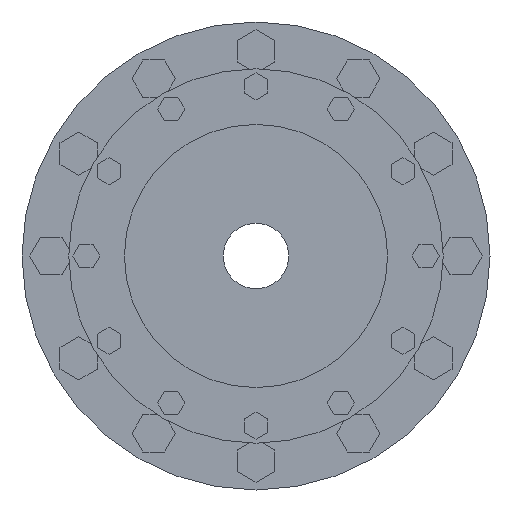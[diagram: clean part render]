
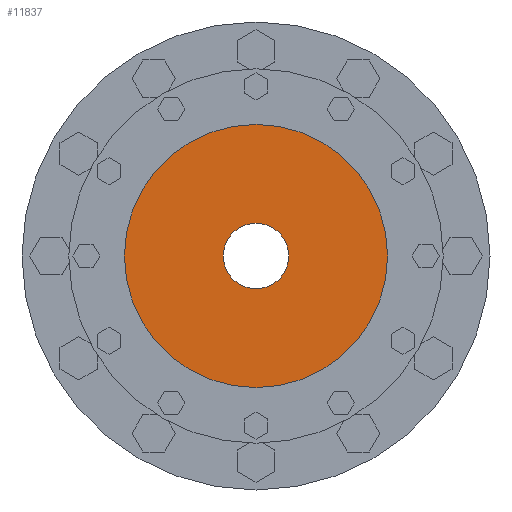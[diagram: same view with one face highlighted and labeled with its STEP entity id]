
A CAD part, left-side view. The second image highlights one B-rep face of the part: STEP entity #11837.
In plain terms, the highlighted planar face has unit normal (-1, 0, 0) as drawn and (1, 0, 0) by its records, which use the part's own axes.
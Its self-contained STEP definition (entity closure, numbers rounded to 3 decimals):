
#11661=CARTESIAN_POINT('',(-4.,0.,0.));
#11662=DIRECTION('',(1.,0.,0.));
#11663=DIRECTION('',(0.,1.,0.));
#11664=AXIS2_PLACEMENT_3D('',#11661,#11662,#11663);
#11671=CARTESIAN_POINT('',(-4.,0.,0.));
#11672=DIRECTION('',(-1.,0.,0.));
#11673=DIRECTION('',(0.,1.,0.));
#11674=AXIS2_PLACEMENT_3D('',#11671,#11672,#11673);
#11676=CARTESIAN_POINT('',(-4.,0.,0.));
#11677=DIRECTION('',(1.,0.,0.));
#11678=DIRECTION('',(0.,1.,0.));
#11679=AXIS2_PLACEMENT_3D('',#11676,#11677,#11678);
#11755=CARTESIAN_POINT('',(-4.,0.,0.));
#11756=DIRECTION('',(1.,0.,0.));
#11757=DIRECTION('',(0.,-1.,0.));
#11758=AXIS2_PLACEMENT_3D('',#11755,#11756,#11757);
#11782=CARTESIAN_POINT('',(-4.,56.25,0.));
#11784=VERTEX_POINT('',#11782);
#11786=CARTESIAN_POINT('',(-4.,-56.25,0.));
#11788=VERTEX_POINT('',#11786);
#11793=CARTESIAN_POINT('',(-4.,14.,0.));
#11794=CARTESIAN_POINT('',(-4.,-14.,0.));
#11795=VERTEX_POINT('',#11793);
#11796=VERTEX_POINT('',#11794);
#11821=CARTESIAN_POINT('',(-4.,0.,0.));
#11822=DIRECTION('',(1.,0.,0.));
#11823=DIRECTION('',(0.,-1.,0.));
#11824=AXIS2_PLACEMENT_3D('',#11821,#11822,#11823);
#11825=PLANE('',#11824);
#11827=ORIENTED_EDGE('',*,*,#11826,.T.);
#11829=ORIENTED_EDGE('',*,*,#11828,.F.);
#11830=EDGE_LOOP('',(#11827,#11829));
#11831=FACE_OUTER_BOUND('',#11830,.F.);
#11832=ORIENTED_EDGE('',*,*,#11810,.T.);
#11834=ORIENTED_EDGE('',*,*,#11833,.T.);
#11835=EDGE_LOOP('',(#11832,#11834));
#11836=FACE_BOUND('',#11835,.F.);
#11837=ADVANCED_FACE('',(#11831,#11836),#11825,.T.);
#11665=CIRCLE('',#11664,14.);
#11675=CIRCLE('',#11674,56.25);
#11680=CIRCLE('',#11679,56.25);
#11759=CIRCLE('',#11758,14.);
#11810=EDGE_CURVE('',#11795,#11796,#11665,.T.);
#11826=EDGE_CURVE('',#11784,#11788,#11675,.T.);
#11828=EDGE_CURVE('',#11784,#11788,#11680,.T.);
#11833=EDGE_CURVE('',#11796,#11795,#11759,.T.);
